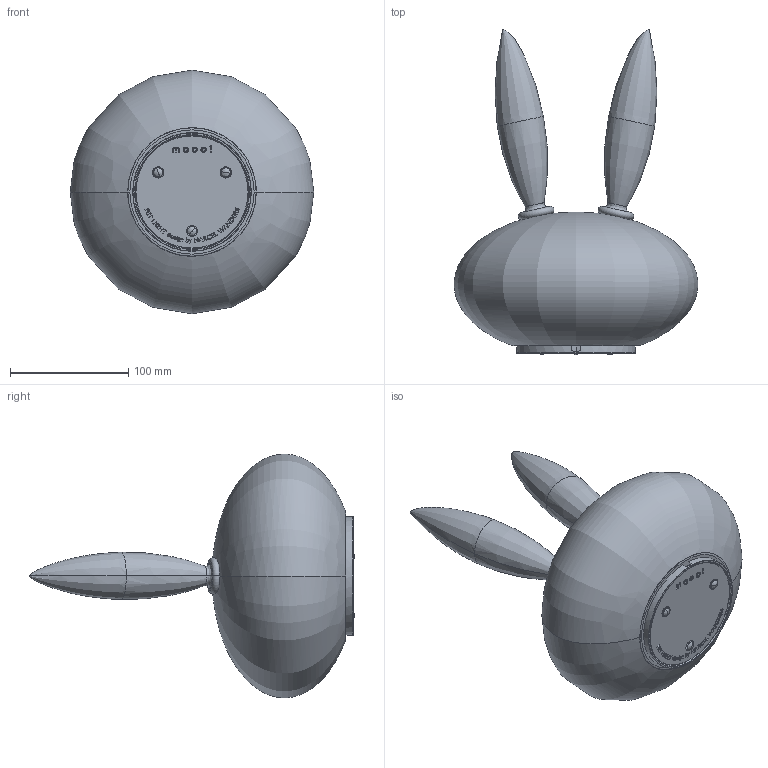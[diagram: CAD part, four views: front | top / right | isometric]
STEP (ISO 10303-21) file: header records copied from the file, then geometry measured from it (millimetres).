
FILE_DESCRIPTION (( 'STEP AP214' ), '1' );
FILE_NAME ('A000660_Creations_Default__04-05-2018.step', '2018-05-04T08:38:33', ( '' ), ( '' ), 'SwSTEP 2.0', 'SolidWorks 2017', '' );
FILE_SCHEMA (( 'AUTOMOTIVE_DESIGN' ));
Length unit declared in the file: millimetre
Products named in the file (1): A000660_Creations_Default__04-05-2018
Bounding box: 205.68 x 274.67 x 205.67 mm (x, y, z)
Surface area: 134959.4 mm2 (no closed solid volume)
Topology: 0 solids, 19 shells, 84 faces, 619 edges, 546 vertices
Faces by surface type: plane 33, bspline 27, torus 12, cone 8, cylinder 4
Entity records: 9615 total; most frequent: CARTESIAN_POINT 4664, ORIENTED_EDGE 716, DIRECTION 611, EDGE_CURVE 607, VERTEX_POINT 546, VECTOR 355, LINE 355, B_SPLINE_CURVE_WITH_KNOTS 180
